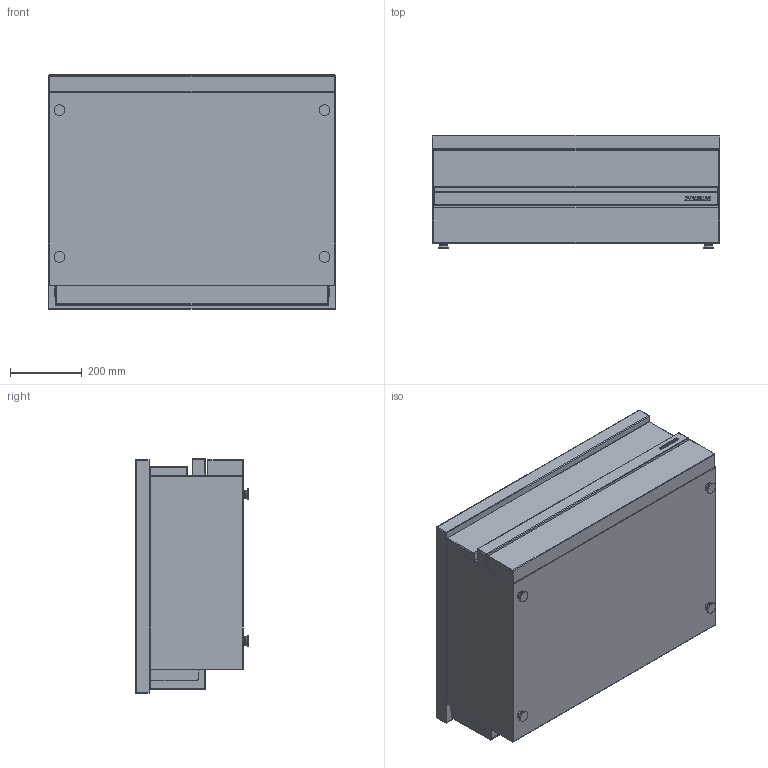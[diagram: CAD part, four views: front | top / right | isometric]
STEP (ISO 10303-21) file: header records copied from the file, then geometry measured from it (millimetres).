
FILE_DESCRIPTION((''),'2;1');
FILE_NAME('CSA800P_EXPORT_STEP_ASM','2017-11-22T',('r.avril'),(''),'PRO/ENGINEER BY PARAMETRIC TECHNOLOGY CORPORATION, 2014200','PRO/ENGINEER BY PARAMETRIC TECHNOLOGY CORPORATION, 2014200','');
FILE_SCHEMA(('AP203_CONFIGURATION_CONTROLLED_3D_DESIGN_OF_MECHANICAL_PARTS_AND_ASSEMBLIES_MIM_LF { 1 0 10303 403 2 1 2 }'));
Length unit declared in the file: millimetre
Products named in the file (3): SNACKS_AMB_800_EXPORT_STEP; TABLE_800_NEUTRE; CSA800P_EXPORT_STEP_ASM
Assembly tree (2 placements, depth 2):
  CSA800P_EXPORT_STEP_ASM
    SNACKS_AMB_800_EXPORT_STEP
    TABLE_800_NEUTRE
Bounding box: 800 x 315 x 652.1 mm (x, y, z)
Volume: 64969379.1 mm3; surface area: 3852272.9 mm2
Topology: 5 solids, 23 shells, 249 faces, 1209 edges, 1236 vertices
Faces by surface type: plane 118, cylinder 87, sphere 36, cone 8
Entity records: 14341 total; most frequent: CARTESIAN_POINT 4171, DIRECTION 1594, ORIENTED_EDGE 1484, EDGE_CURVE 967, VERTEX_POINT 752, VECTOR 587, LINE 587, AXIS2_PLACEMENT_3D 499
